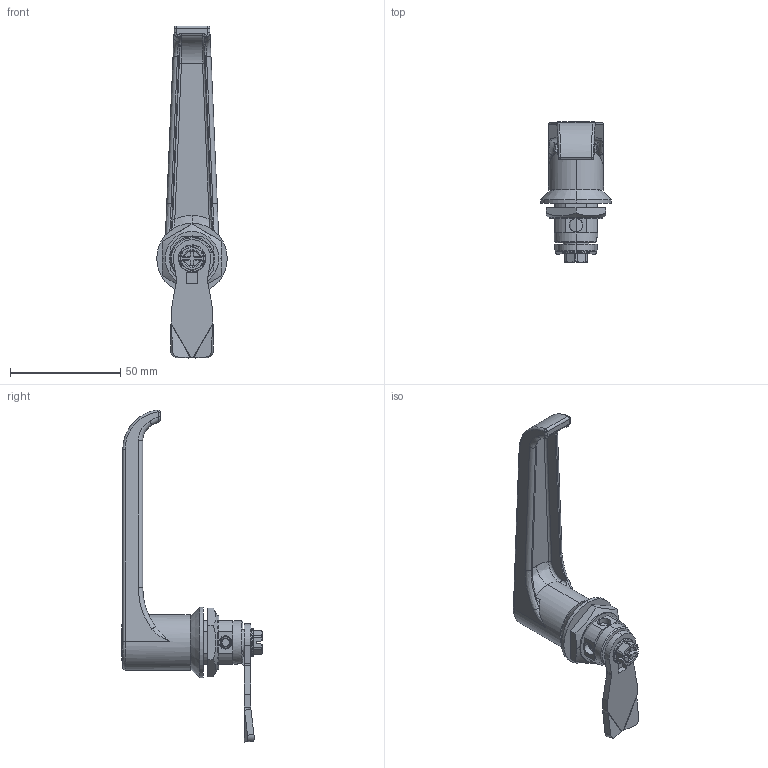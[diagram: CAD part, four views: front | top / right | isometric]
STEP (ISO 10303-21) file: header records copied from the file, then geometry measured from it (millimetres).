
FILE_DESCRIPTION (( 'STEP AP214' ), '1' );
FILE_NAME ('2.L18.STEP', '2016-09-08T10:39:35', ( '' ), ( '' ), 'SwSTEP 2.0', 'SolidWorks 2015', '' );
FILE_SCHEMA (( 'AUTOMOTIVE_DESIGN' ));
Length unit declared in the file: millimetre
Products named in the file (12): 2.K.PM18.001_A; 2.L18; 1C.J-1XX.GH.L_#3, 1.65.18.45; 2.NKR_M22 - A1; DIN 6921_M6x8; 2.L18.001.05; 2.L18.001.02_A; Wk³adka 1333_1333 IP; 2.L18.001.03; DIN 3771_12x3; DIN 914_M2,5 x 4; 2.PM18.001.02
Assembly tree (11 placements, depth 2):
  2.L18
    2.L18.001.02_A
    Wk³adka 1333_1333 IP
    2.L18.001.03
    2.L18.001.05
    2.PM18.001.02
    DIN 914_M2,5 x 4
    DIN 3771_12x3
    2.K.PM18.001_A
    2.NKR_M22 - A1
    1C.J-1XX.GH.L_#3, 1.65.18.45
    DIN 6921_M6x8
Bounding box: 32 x 63.7 x 150.65 mm (x, y, z)
Volume: 36865.4 mm3; surface area: 24886 mm2
Topology: 11 solids, 11 shells, 505 faces, 1265 edges, 801 vertices
Faces by surface type: plane 254, cylinder 155, cone 54, bspline 31, torus 11
Entity records: 18688 total; most frequent: CARTESIAN_POINT 5215, ORIENTED_EDGE 2518, DIRECTION 2373, EDGE_CURVE 1259, AXIS2_PLACEMENT_3D 882, VERTEX_POINT 801, LINE 609, VECTOR 609
